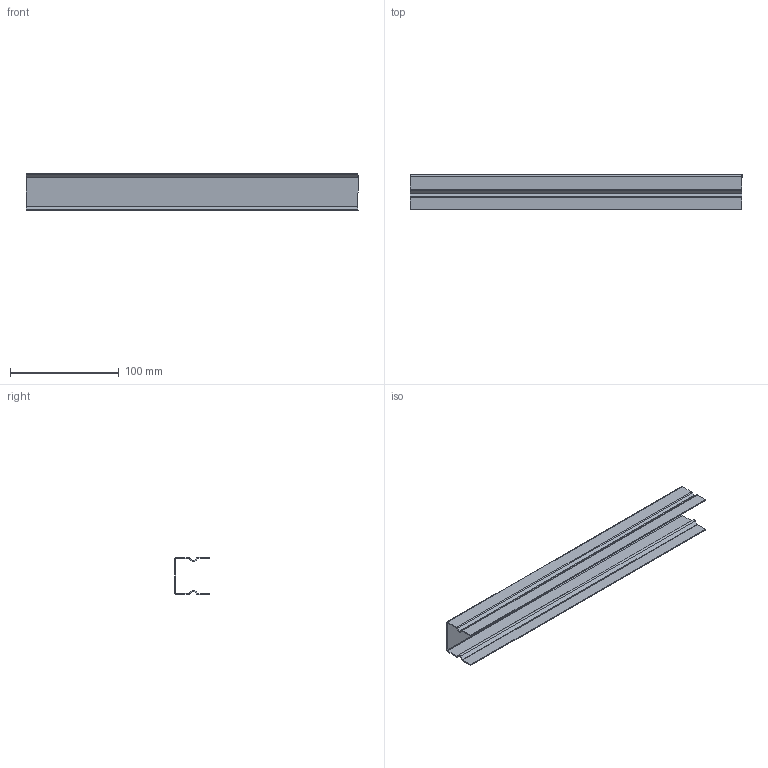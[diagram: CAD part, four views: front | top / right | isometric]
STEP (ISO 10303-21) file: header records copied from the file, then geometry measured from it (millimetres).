
FILE_DESCRIPTION (( 'STEP AP203' ), '1' );
FILE_NAME ('70-0273-00 REV 1, CABLE COVER, 18in RIGID, BLACK.STEP', '2017-01-25T17:46:35', ( '' ), ( '' ), 'SwSTEP 2.0', 'SolidWorks 2012', '' );
FILE_SCHEMA (( 'CONFIG_CONTROL_DESIGN' ));
Length unit declared in the file: inch
Products named in the file (1): 70-0273-00 REV 1, CABLE COVER, 18in RIGID, BLACK
Bounding box: 304.8 x 31.77 x 34.12 mm (x, y, z)
Volume: 27487.8 mm3; surface area: 60859.9 mm2
Topology: 1 solids, 1 shells, 70 faces, 140 edges, 72 vertices
Faces by surface type: plane 54, cylinder 16
Entity records: 1803 total; most frequent: DIRECTION 314, CARTESIAN_POINT 283, ORIENTED_EDGE 280, EDGE_CURVE 140, VECTOR 108, LINE 108, AXIS2_PLACEMENT_3D 103, VERTEX_POINT 72
